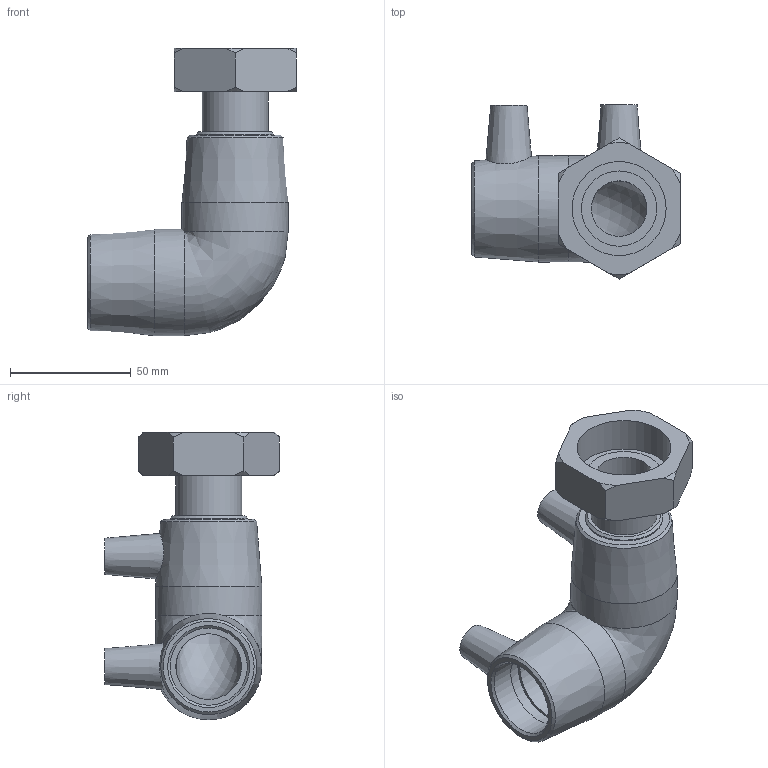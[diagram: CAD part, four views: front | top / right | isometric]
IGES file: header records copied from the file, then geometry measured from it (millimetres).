
Global section: file name: 494504032013.ipt; native system: Autodesk Inventor 2015; preprocessor: unknown; author: KIM; date: 20180426.120816; units: millimetre
Bounding box: 86.3 x 72.21 x 119 mm (x, y, z)
Volume: 129659.5 mm3; surface area: 42650.4 mm2
Topology: 1 solids, 2 shells, 61 faces, 146 edges, 98 vertices
Faces by surface type: plane 23, cone 19, revolution 10, cylinder 8, bspline 1
Full cylindrical faces by diameter (mm): 4 x2, 27.266 x1, 31.162 x1, 32 x2, 44 x2
